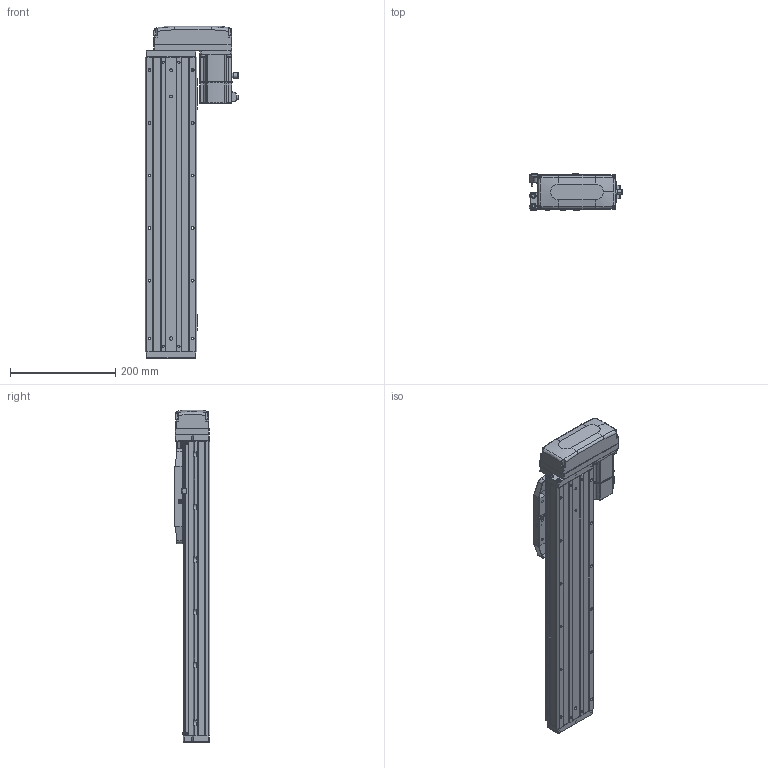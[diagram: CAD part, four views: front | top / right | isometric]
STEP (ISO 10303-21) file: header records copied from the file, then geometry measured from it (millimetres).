
FILE_DESCRIPTION (( 'STEP AP203' ), '1' );
FILE_NAME ('CTHA100-350-BL-M20-C4L.step', '2022-07-06T08:57:03', ( '微软用户' ), ( '微软中国' ), 'SwSTEP 2.0', 'SolidWorks 2020', '' );
FILE_SCHEMA (( 'CONFIG_CONTROL_DESIGN' ));
Length unit declared in the file: millimetre
Products named in the file (19): CTHA60-017; CTHA100-002; CTHA60-021; CTHA100-031; KTHA100-001_560; GBT77-2000 M3×3; CTHA86-030; KTHA100-004; GBT 70.1-M3℅6; GBT 70.3-M3℅6; KTHA100-005; GBT70.1 M5℅16; CTHA86-015-1_CTHA86-015-2; GB¨uT 70.2-M3¡Á5_M3¡Á6; CTHA60-016; CTHA86-033; EE_SX911P_R; _X2_4E0983F1_X0_200W_1; CTHA100-350-BL-M20-C4L
Assembly tree (64 placements, depth 2):
  CTHA100-350-BL-M20-C4L
    KTHA100-001_560
    KTHA100-004
    KTHA100-005
    GB¨uT 70.2-M3¡Á5_M3¡Á6  x10
    EE_SX911P_R  x3
    CTHA60-017  x3
    CTHA60-021  x2
    GBT77-2000 M3×3  x6
    GBT 70.1-M3℅6  x10
    GBT70.1 M5℅16  x14
    CTHA60-016  x2
    _X2_4E0983F1_X0_200W_1
    CTHA100-002
    CTHA100-031
    CTHA86-030  x2
    GBT 70.3-M3℅6  x4
    CTHA86-015-1_CTHA86-015-2
    CTHA86-033
Bounding box: 177.7 x 68 x 631 mm (x, y, z)
Volume: 2915703.5 mm3; surface area: 508535.6 mm2
Topology: 66 solids, 66 shells, 2629 faces, 6303 edges, 3904 vertices
Faces by surface type: plane 1368, cylinder 689, cone 349, torus 124, bspline 75, sphere 24
Entity records: 44700 total; most frequent: CARTESIAN_POINT 8811, DIRECTION 6874, ORIENTED_EDGE 6722, EDGE_CURVE 3361, AXIS2_PLACEMENT_3D 2339, VECTOR 2196, LINE 2196, VERTEX_POINT 2124
